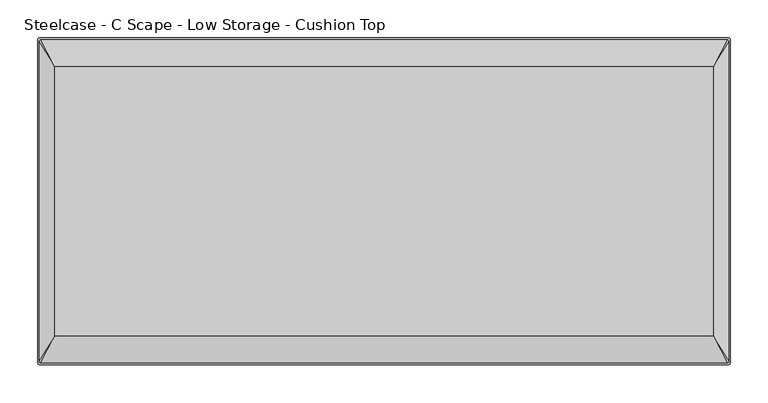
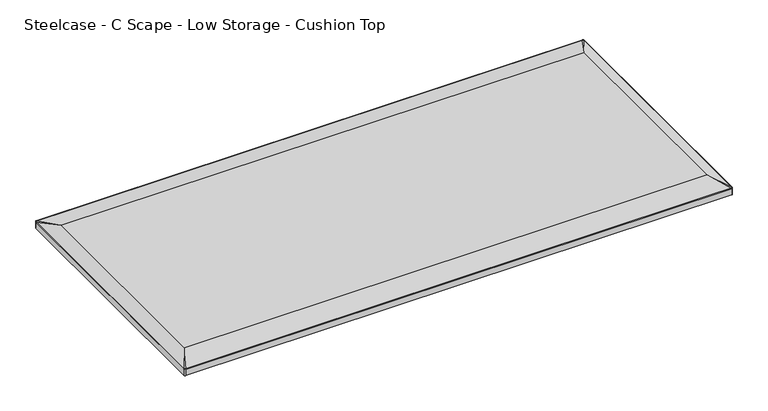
"""IFC4 building model written with IfcOpenShell, lengths in millimetres: furniture geometry, Steelcase - C Scape - Low Storage - Cushion Top : 17D x 36W."""

from ifc_helpers import new_model, si_unit, point, frame, frame_2d, origin, place, context, project, spatial, polyline, circle_curve, trimmed, segment, composite_curve, outline, extrude, source, transform, mapped, element, save
from ifc_brep_helpers import plane_surface, spline_surface, advanced_brep


def steelcase_c_scape_low_storage_cushion_top_33cc21bd(model_context):
    return source(origin(), model_context, "Body", "SolidModel", [
        extrude(outline(composite_curve([segment(trimmed(circle_curve(frame_2d((911.86, 213.36)), 2.54), [point((911.86, 215.9))], [point((914.4, 213.36))], False, "CARTESIAN"), True, "CONTINUOUS"), segment(polyline([(914.4, 213.36), (914.4, -213.36)]), True, "CONTINUOUS"), segment(trimmed(circle_curve(frame_2d((911.86, -213.36)), 2.54), [point((914.4, -213.36))], [point((911.86, -215.9))], False, "CARTESIAN"), True, "CONTINUOUS"), segment(polyline([(911.86, -215.9), (2.54, -215.9)]), True, "CONTINUOUS"), segment(trimmed(circle_curve(frame_2d((2.54, -213.36)), 2.54), [point((2.54, -215.9))], [point((0.0, -213.36))], False, "CARTESIAN"), True, "CONTINUOUS"), segment(polyline([(0.0, -213.36), (0.0, 213.36)]), True, "CONTINUOUS"), segment(trimmed(circle_curve(frame_2d((2.54, 213.36)), 2.54), [point((0.0, 213.36))], [point((2.54, 215.9))], False, "CARTESIAN"), True, "CONTINUOUS"), segment(polyline([(2.54, 215.9), (911.86, 215.9)]), True, "CONTINUOUS")], self_intersect=False)), frame((0.0, 0.0, 599.44), z_axis=(0.0, 0.0, 1.0), x_axis=(1.0, 0.0, 0.0)), (0.0, 0.0, 1.0), 10.9220174),
        advanced_brep(
        [(911.86, 215.9, 610.3620174), (914.4, 213.36, 610.3620174), (914.4, -213.36, 610.3620174), (911.86, -215.9, 610.3620174), (2.54, -215.9, 610.3620174), (0.0, -213.36, 610.3620174), (0.0, 213.36, 610.3620174), (2.54, 215.9, 610.3620174), (892.302, 177.5206021, 618.4900097), (22.0725989, 177.5206021, 618.4900097), (22.0725989, -177.5206021, 618.4900097), (892.302, -177.5206021, 618.4900097)],
        [
            (0, 1, circle_curve(frame((911.86, 213.36, 610.3620174), z_axis=(0.0, 0.0, -1.0), x_axis=(1.0, 0.0, 0.0)), 2.54)),
            (1, 2),
            (2, 3, circle_curve(frame((911.86, -213.36, 610.3620174), z_axis=(0.0, 0.0, -1.0), x_axis=(1.0, 0.0, 0.0)), 2.54)),
            (3, 4),
            (4, 5, circle_curve(frame((2.54, -213.36, 610.3620174), z_axis=(0.0, 0.0, -1.0), x_axis=(1.0, 0.0, 0.0)), 2.54)),
            (5, 6),
            (6, 7, circle_curve(frame((2.54, 213.36, 610.3620174), z_axis=(0.0, 0.0, -1.0), x_axis=(1.0, 0.0, 0.0)), 2.54)),
            (7, 0),
            (8, 9),
            (9, 10),
            (10, 11),
            (11, 8),
            (8, 0),
            (7, 9),
            (9, 6),
            (5, 10),
            (10, 4),
            (3, 11),
            (11, 2),
            (1, 8),
        ],
        [
            plane_surface(frame((457.2, 0.0, 610.3620174), z_axis=(0.0, 0.0, -1.0), x_axis=(-1.0, 0.0, 0.0))),
            plane_surface(frame((457.1872995, 0.0, 618.4900097), z_axis=(0.0, 0.0, 1.0), x_axis=(-1.0, 0.0, 0.0))),
            plane_surface(frame((457.1872995, 177.5206021, 618.4900097), z_axis=(0.0, 0.20718484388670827, 0.9783018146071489), x_axis=(1.0, 0.0, 0.0))),
            plane_surface(frame((22.0725989, 0.0, 618.4900097), z_axis=(-0.3455549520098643, 0.0, 0.9383985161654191), x_axis=(0.0, 1.0, 0.0))),
            plane_surface(frame((457.1872995, -177.5206021, 618.4900097), z_axis=(0.0, -0.20718484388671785, 0.9783018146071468), x_axis=(-1.0, 0.0, 0.0))),
            plane_surface(frame((892.302, 0.0, 618.4900097), z_axis=(0.3452051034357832, 0.0, 0.9385272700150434), x_axis=(0.0, -1.0, 0.0))),
            spline_surface(2, 1, [[(892.302, 177.5206021, 618.4900097), (911.86, 215.9, 610.3620174)], [(892.302, 177.5206021, 618.4900097), (914.4, 215.90000000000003, 610.3620174)], [(892.302, 177.5206021, 618.4900097), (914.4, 213.36, 610.3620174)]], [3, 3], [2, 2], [0.0, 1.0], [0.0, 1.0], weights=[[1.0, 1.0], [0.7071067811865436, 0.7071067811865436], [1.0, 1.0]]),
            spline_surface(2, 1, [[(892.302, -177.5206021, 618.4900097), (914.4, -213.36, 610.3620174)], [(892.302, -177.5206021, 618.4900097), (914.4, -215.89999999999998, 610.3620174)], [(892.302, -177.5206021, 618.4900097), (911.86, -215.9, 610.3620174)]], [3, 3], [2, 2], [0.0, 1.0], [0.0, 1.0], weights=[[1.0, 1.0], [0.7071067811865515, 0.7071067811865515], [1.0, 1.0]]),
            spline_surface(2, 1, [[(22.0725989, -177.5206021, 618.4900097), (2.54, -215.9, 610.3620174)], [(22.0725989, -177.5206021, 618.4900097), (7.993605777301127e-15, -215.9, 610.3620174)], [(22.0725989, -177.5206021, 618.4900097), (0.0, -213.36, 610.3620174)]], [3, 3], [2, 2], [0.0, 1.0], [0.0, 1.0], weights=[[1.0, 1.0], [0.7071067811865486, 0.7071067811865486], [1.0, 1.0]]),
            spline_surface(2, 1, [[(22.0725989, 177.5206021, 618.4900097), (0.0, 213.36, 610.3620174)], [(22.0725989, 177.5206021, 618.4900097), (-8.43769498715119e-15, 215.9, 610.3620174)], [(22.0725989, 177.5206021, 618.4900097), (2.54, 215.9, 610.3620174)]], [3, 3], [2, 2], [0.0, 1.0], [0.0, 1.0], weights=[[1.0, 1.0], [0.7071067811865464, 0.7071067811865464], [1.0, 1.0]]),
        ],
        [
            (0, [[1, 2, 3, 4, 5, 6, 7, 8]]),
            (1, [[9, 10, 11, 12]]),
            (2, [[-9, 13, -8, 14]]),
            (3, [[-10, 15, -6, 16]]),
            (4, [[-11, 17, -4, 18]]),
            (5, [[-12, 19, -2, 20]]),
            (6, [[-1, -13, -20]]),
            (7, [[-3, -19, -18]]),
            (8, [[-5, -17, -16]]),
            (9, [[-7, -15, -14]]),
        ],
    ),
    ])


if __name__ == "__main__":
    model = new_model("IFC4")
    model_context = context("Model", 3, world=origin())
    ifc_project = project(units=[si_unit("LENGTHUNIT", "METRE", prefix="MILLI")], contexts=[model_context])
    site = spatial("IfcSite", under=ifc_project)
    building = spatial("IfcBuilding", under=site)
    placement = place(None, origin())
    steelcase_c_scape_low_storage_cushion_top_shape = steelcase_c_scape_low_storage_cushion_top_33cc21bd(model_context)
    element("IfcFurniture", 1, ObjectType="Steelcase - C Scape - Low Storage - Cushion Top : 17D x 36W", at=placement, inside=building, context=model_context, shape_type="MappedRepresentation", body=[
        mapped(steelcase_c_scape_low_storage_cushion_top_shape, transform((0.0, 0.0, 0.0), x_axis=(1.0, 0.0, 0.0), y_axis=(0.0, 1.0, 0.0), z_axis=(0.0, 0.0, 1.0))),
    ])
    save(model, "model.ifc")
